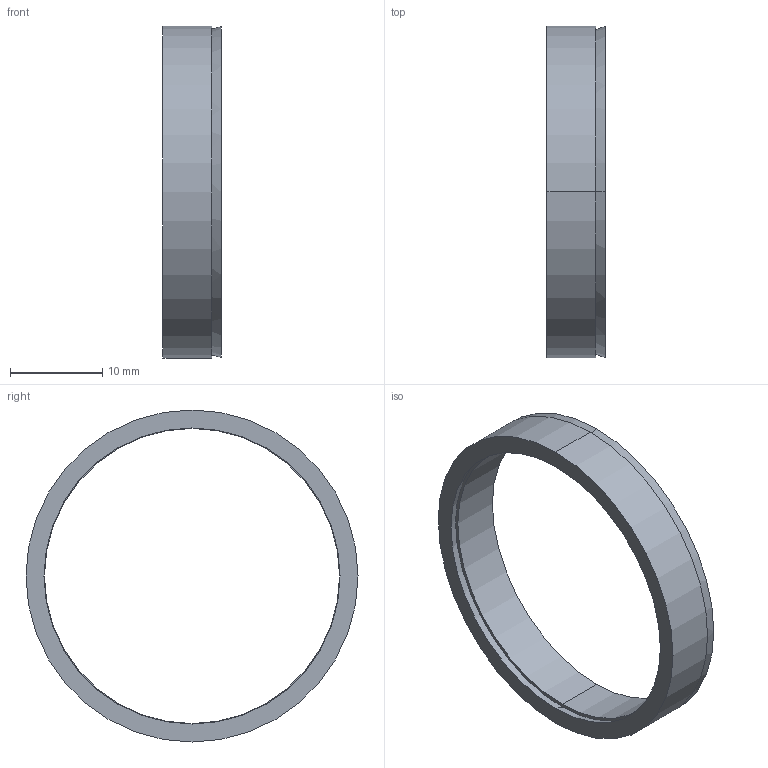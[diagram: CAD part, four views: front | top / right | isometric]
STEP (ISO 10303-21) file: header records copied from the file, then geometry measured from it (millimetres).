
FILE_DESCRIPTION (( 'STEP AP203' ), '1' );
FILE_NAME ('R-32-36.STEP', '2017-11-06T02:23:44', ( 'MYCOM' ), ( '' ), 'SwSTEP 2.0', 'SolidWorks 2015', '' );
FILE_SCHEMA (( 'CONFIG_CONTROL_DESIGN' ));
Length unit declared in the file: millimetre
Products named in the file (1): R-32-36
Bounding box: 6.3 x 36 x 36 mm (x, y, z)
Surface area: 2805.6 mm2 (no closed solid volume)
Topology: 0 solids, 2 shells, 12 faces, 24 edges, 16 vertices
Faces by surface type: cylinder 4, cone 4, plane 4
Entity records: 406 total; most frequent: DIRECTION 66, CARTESIAN_POINT 53, ORIENTED_EDGE 48, AXIS2_PLACEMENT_3D 29, EDGE_CURVE 24, EDGE_LOOP 16, CIRCLE 16, VERTEX_POINT 16
